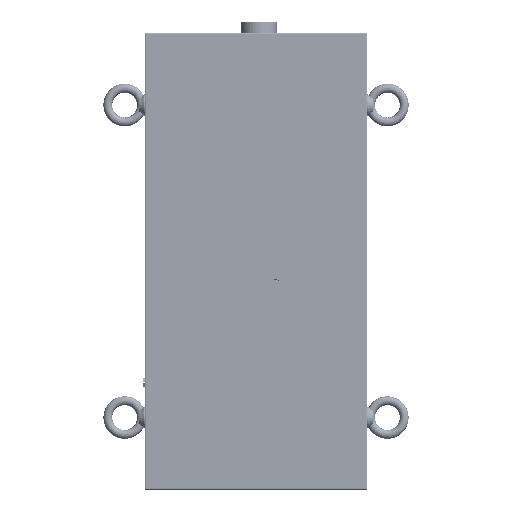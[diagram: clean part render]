
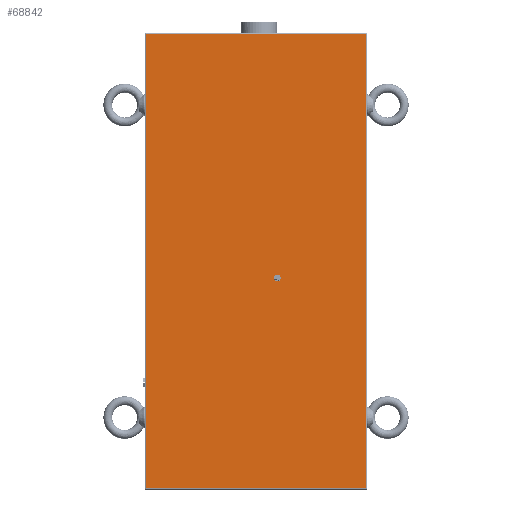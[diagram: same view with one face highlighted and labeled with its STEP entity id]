
A CAD part, top view. The second image highlights one B-rep face of the part: STEP entity #68842.
In plain terms, the highlighted planar face has unit normal (0, 0, 1).
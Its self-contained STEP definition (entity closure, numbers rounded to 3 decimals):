
#67836=CARTESIAN_POINT('',(29.943,151.094,37.));
#67837=VERTEX_POINT('',#67836);
#67844=CARTESIAN_POINT('',(29.943,146.239,37.));
#67845=DIRECTION('',(0.,1.,0.));
#67846=DIRECTION('',(0.,0.,1.));
#67847=AXIS2_PLACEMENT_3D('',#67844,#67846,#67845);
#67848=CIRCLE('',#67847,4.855);
#67849=EDGE_CURVE('',#67837,#67837,#67848,.T.);
#68800=CARTESIAN_POINT('',(165.,170.,37.));
#68801=DIRECTION('',(0.,1.,0.));
#68802=DIRECTION('',(0.,0.,-1.));
#68803=AXIS2_PLACEMENT_3D('',#68800,#68802,#68801);
#68804=PLANE('',#68803);
#68805=CARTESIAN_POINT('',(-155.,-150.,37.));
#68806=VERTEX_POINT('',#68805);
#68807=CARTESIAN_POINT('',(-155.,490.,37.));
#68808=VERTEX_POINT('',#68807);
#68809=CARTESIAN_POINT('',(-155.,-150.,37.));
#68810=DIRECTION('',(0.,1.,0.));
#68811=VECTOR('',#68810,640.);
#68812=LINE('',#68809,#68811);
#68813=EDGE_CURVE('',#68806,#68808,#68812,.T.);
#68814=ORIENTED_EDGE('E196',*,*,#68813,.T.);
#68815=CARTESIAN_POINT('',(155.,490.,37.));
#68816=VERTEX_POINT('',#68815);
#68817=CARTESIAN_POINT('',(-155.,490.,37.));
#68818=DIRECTION('',(1.,0.,0.));
#68819=VECTOR('',#68818,310.);
#68820=LINE('',#68817,#68819);
#68821=EDGE_CURVE('',#68808,#68816,#68820,.T.);
#68822=ORIENTED_EDGE('E205',*,*,#68821,.T.);
#68823=CARTESIAN_POINT('',(155.,-150.,37.));
#68824=VERTEX_POINT('',#68823);
#68825=CARTESIAN_POINT('',(155.,490.,37.));
#68826=DIRECTION('',(0.,-1.,0.));
#68827=VECTOR('',#68826,640.);
#68828=LINE('',#68825,#68827);
#68829=EDGE_CURVE('',#68816,#68824,#68828,.T.);
#68830=ORIENTED_EDGE('E209',*,*,#68829,.T.);
#68831=CARTESIAN_POINT('',(155.,-150.,37.));
#68832=DIRECTION('',(-1.,0.,0.));
#68833=VECTOR('',#68832,310.);
#68834=LINE('',#68831,#68833);
#68835=EDGE_CURVE('',#68824,#68806,#68834,.T.);
#68836=ORIENTED_EDGE('E201',*,*,#68835,.T.);
#68837=EDGE_LOOP('',(#68814,#68822,#68830,#68836));
#68838=FACE_OUTER_BOUND('',#68837,.F.);
#68839=ORIENTED_EDGE('',*,*,#67849,.T.);
#68840=EDGE_LOOP('',(#68839));
#68841=FACE_BOUND('',#68840,.F.);
#68842=ADVANCED_FACE('F1',(#68838,#68841),#68804,.F.);
